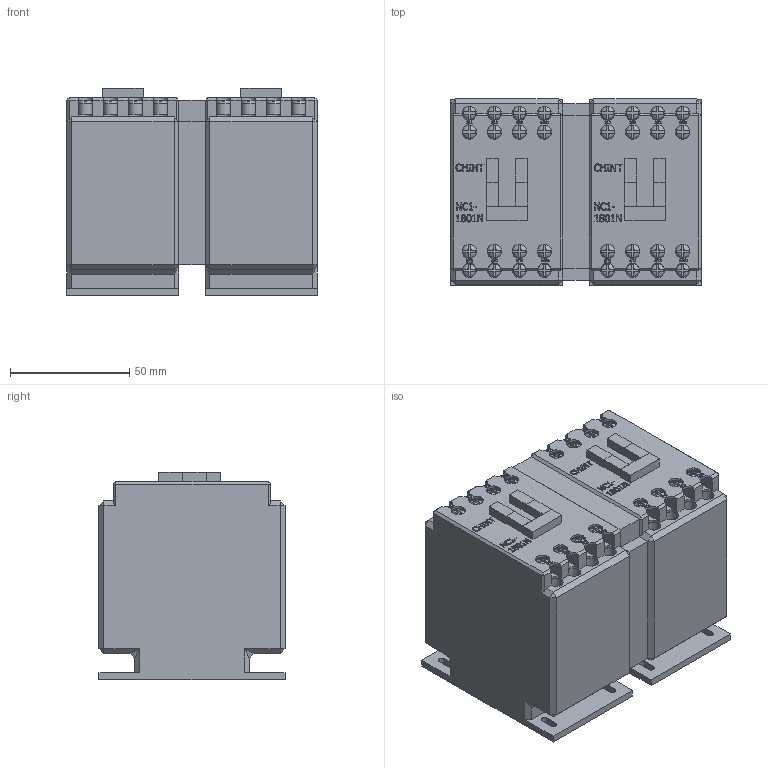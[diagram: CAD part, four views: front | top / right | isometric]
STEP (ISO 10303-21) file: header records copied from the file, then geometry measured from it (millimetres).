
FILE_DESCRIPTION(/* description */ (''),/* implementation_level */ '2;1');
FILE_NAME(/* name */ 'D:\CHINT2\NC1-N\NC1-1801N 230В 50Гц.stp',/* time_stamp */ '2017-11-12T20:33:56+03:00',/* author */ ('RSagdiev'),/* organization */ (''),/* preprocessor_version */ 'ST-DEVELOPER v16.5',/* originating_system */ 'Autodesk Inventor 2017',/* authorisation */ '');
FILE_SCHEMA (('AUTOMOTIVE_DESIGN { 1 0 10303 214 3 1 1 }'));
Products named in the file (1): NC1-1801N 230В 50Гц
Bounding box: 105 x 78 x 87 mm (x, y, z)
Volume: 623460.5 mm3; surface area: 64087.6 mm2
Topology: 37 solids, 37 shells, 2148 faces, 5630 edges, 3672 vertices
Faces by surface type: plane 1578, bspline 474, cylinder 96
Full cylindrical faces by diameter (mm): 5.8 x16, 6 x32
Entity records: 70863 total; most frequent: CARTESIAN_POINT 21205, ORIENTED_EDGE 11164, DIRECTION 8360, EDGE_CURVE 5582, LINE 3834, VECTOR 3834, VERTEX_POINT 3672, EDGE_LOOP 2360
